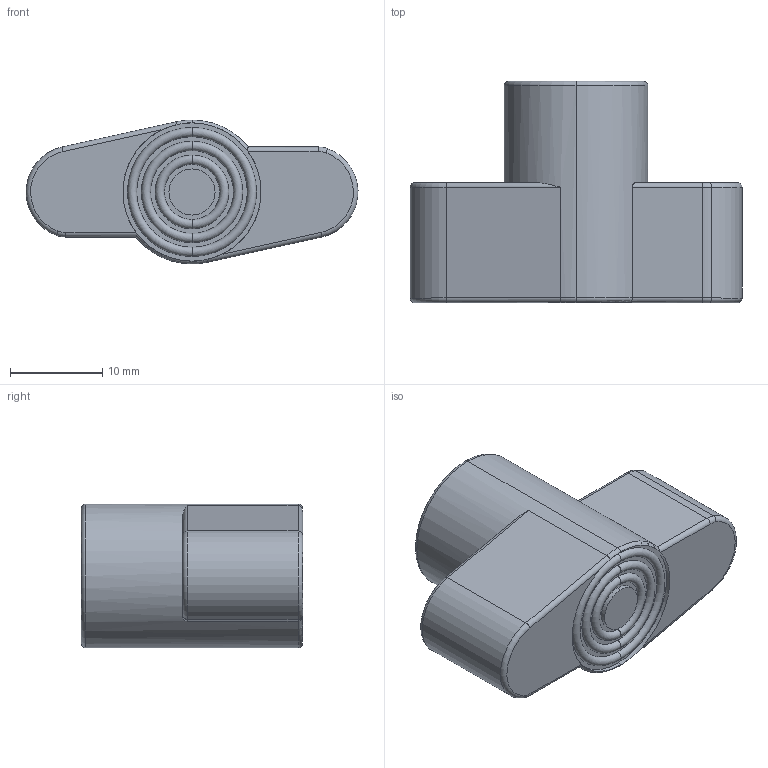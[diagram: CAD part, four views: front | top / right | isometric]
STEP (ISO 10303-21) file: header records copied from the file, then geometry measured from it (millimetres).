
FILE_DESCRIPTION (( 'STEP AP203' ), '1' );
FILE_NAME ('AP-2062-35-M6.STEP', '2015-11-23T05:30:07', ( '' ), ( '' ), 'SwSTEP 2.0', 'SolidWorks 2014', '' );
FILE_SCHEMA (( 'CONFIG_CONTROL_DESIGN' ));
Length unit declared in the file: millimetre
Products named in the file (1): AP-2062-35-M6
Bounding box: 36 x 24 x 15.6 mm (x, y, z)
Volume: 7024.3 mm3; surface area: 3480.3 mm2
Topology: 2 solids, 2 shells, 62 faces, 139 edges, 85 vertices
Faces by surface type: cylinder 24, torus 19, plane 17, cone 2
Entity records: 1849 total; most frequent: DIRECTION 340, CARTESIAN_POINT 339, ORIENTED_EDGE 274, AXIS2_PLACEMENT_3D 150, EDGE_CURVE 137, CIRCLE 87, VERTEX_POINT 85, EDGE_LOOP 70
